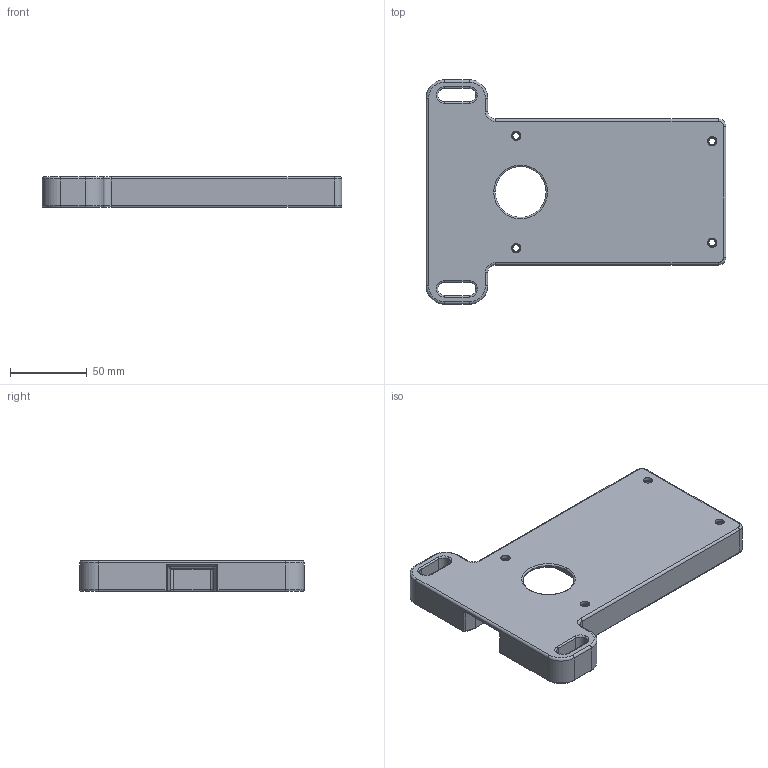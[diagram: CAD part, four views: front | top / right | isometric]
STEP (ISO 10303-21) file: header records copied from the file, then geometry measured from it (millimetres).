
FILE_DESCRIPTION (( 'STEP AP203' ), '1' );
FILE_NAME ('UGB2-SS Mounting Plate (STEP Format).STEP', '2017-08-23T09:27:25', ( '' ), ( '' ), 'SwSTEP 2.0', 'SolidWorks 2015', '' );
FILE_SCHEMA (( 'CONFIG_CONTROL_DESIGN' ));
Length unit declared in the file: millimetre
Products named in the file (1): UGB2-SS Mounting Plate (STEP Format)
Bounding box: 195 x 146 x 20 mm (x, y, z)
Volume: 116769 mm3; surface area: 71091.3 mm2
Topology: 1 solids, 1 shells, 370 faces, 853 edges, 464 vertices
Faces by surface type: cylinder 174, torus 84, plane 62, bspline 28, cone 16, sphere 6
Entity records: 11258 total; most frequent: CARTESIAN_POINT 3000, DIRECTION 1861, ORIENTED_EDGE 1650, EDGE_CURVE 825, AXIS2_PLACEMENT_3D 757, VERTEX_POINT 464, CIRCLE 414, EDGE_LOOP 391
